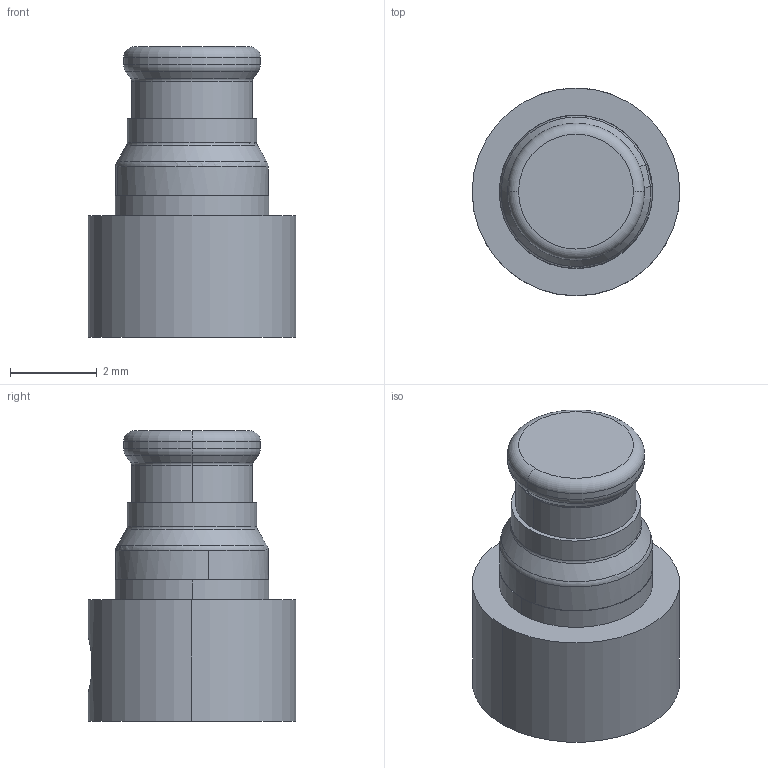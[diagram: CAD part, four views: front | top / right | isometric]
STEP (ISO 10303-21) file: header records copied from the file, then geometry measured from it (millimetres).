
FILE_DESCRIPTION (( 'STEP AP214' ), '1' );
FILE_NAME ('1222-4012.STEP', '2016-04-12T20:58:52', ( '' ), ( '' ), 'SwSTEP 2.0', 'SolidWorks 2015', '' );
FILE_SCHEMA (( 'AUTOMOTIVE_DESIGN' ));
Length unit declared in the file: inch
Products named in the file (1): 1222-4012
Bounding box: 4.78 x 4.78 x 6.68 mm (x, y, z)
Volume: 79.1 mm3; surface area: 119.4 mm2
Topology: 1 solids, 1 shells, 41 faces, 88 edges, 54 vertices
Faces by surface type: cylinder 16, plane 10, torus 8, cone 7
Entity records: 1722 total; most frequent: CARTESIAN_POINT 240, DIRECTION 216, ORIENTED_EDGE 176, AXIS2_PLACEMENT_3D 94, EDGE_CURVE 88, VERTEX_POINT 54, CIRCLE 52, EDGE_LOOP 46
